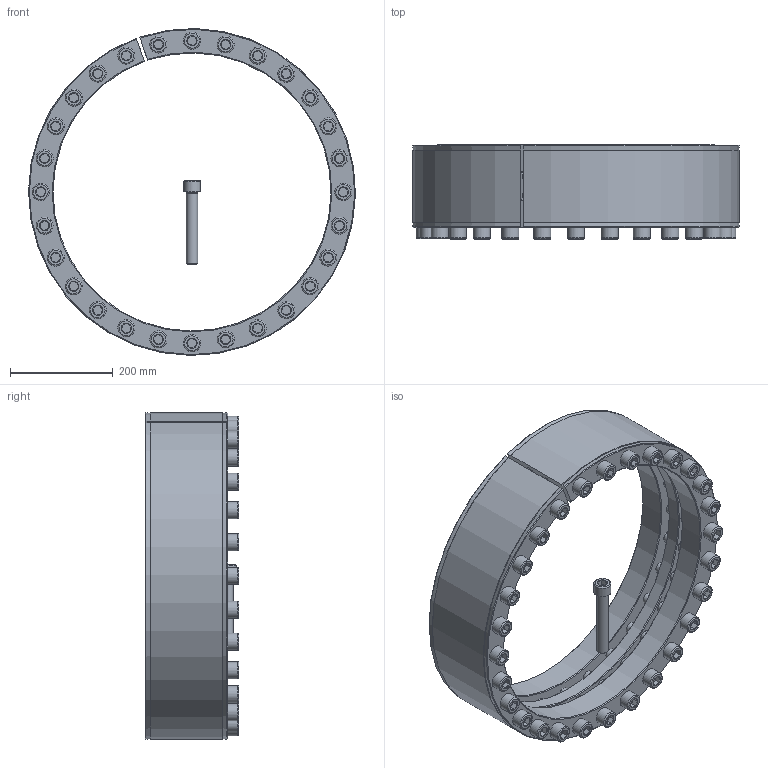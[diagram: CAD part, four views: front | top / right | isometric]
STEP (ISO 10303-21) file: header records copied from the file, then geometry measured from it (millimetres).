
FILE_DESCRIPTION( ( 'Unknown' ), '1' );
FILE_NAME( 'C:/Users/Frank/Eigene Daten/CAD/Solid Edge/KBK Karpstein/KBS Layout Baureihen/KBS 18/KBS 18 - 540 x 635.stp', 'Unknown', ( 'Unknown' ), ( 'Unknown' ), 'XStep 1.0', 'Unknown', ' ' );
FILE_SCHEMA( ( 'automotive_design' ) );
Length unit declared in the file: millimetre
Products named in the file (3): Assem1; ISO EN DIN 4762 M22x140; KBS 18 - 540 x 635
Bounding box: 634.95 x 182 x 634.9 mm (x, y, z)
Volume: 22605884.4 mm3; surface area: 2844297 mm2
Topology: 31 solids, 31 shells, 945 faces, 1987 edges, 1220 vertices
Faces by surface type: plane 368, cylinder 292, cone 227, torus 58
Full cylindrical faces by diameter (mm): 18 x29, 19.294 x56, 22 x58, 24 x112, 33 x29
Entity records: 5406 total; most frequent: CARTESIAN_POINT 821, DIRECTION 784, ORIENTED_EDGE 550, EDGE_LOOP 398, AXIS2_PLACEMENT_3D 374, EDGE_CURVE 275, VERTEX_POINT 239, FACE_OUTER_BOUND 225
